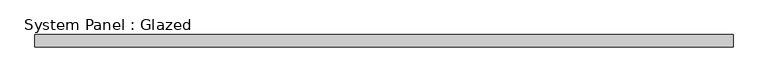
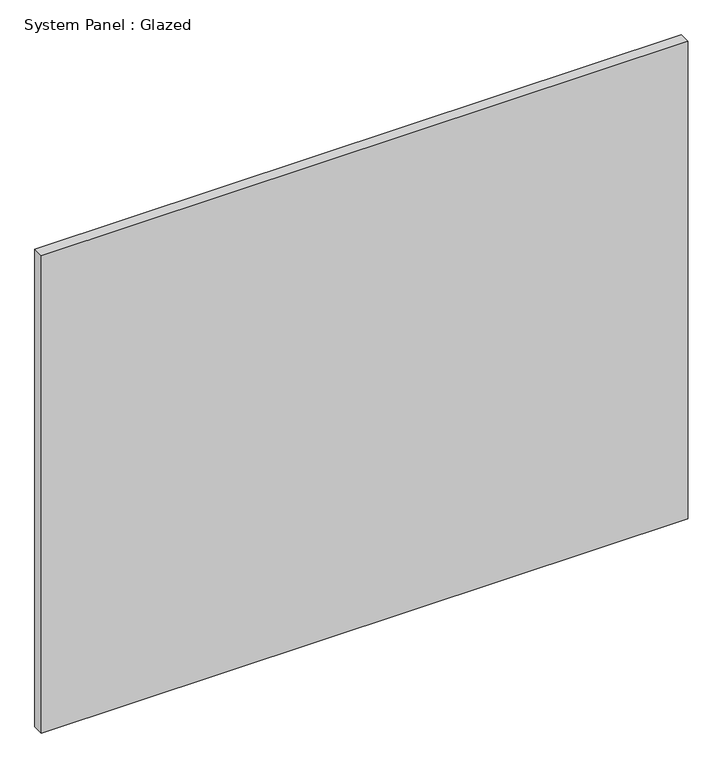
"""IFC4 building model written with IfcOpenShell, lengths in millimetres: plate geometry, System Panel : Glazed."""

from ifc_helpers import new_model, si_unit, origin, origin_with_axes, place, context, project, spatial, polyline, outline, extrude, source, transform, mapped, element, save


def system_panel_glazed_3e1611a5(model_context):
    return source(origin(), model_context, "Body", "SweptSolid", [
        extrude(outline(polyline([(568.75, -40.0), (-568.75, -40.0), (-568.75, -20.0), (568.75, -20.0), (568.75, -40.0)])), origin_with_axes(), (0.0, 0.0, 1.0), 888.0),
    ])


if __name__ == "__main__":
    model = new_model("IFC4")
    model_context = context("Model", 3, world=origin())
    ifc_project = project(units=[si_unit("LENGTHUNIT", "METRE", prefix="MILLI")], contexts=[model_context])
    site = spatial("IfcSite", under=ifc_project)
    building = spatial("IfcBuilding", under=site)
    placement = place(None, origin())
    system_panel_glazed_shape = system_panel_glazed_3e1611a5(model_context)
    element("IfcPlate", 1, ObjectType="System Panel : Glazed", at=placement, inside=building, context=model_context, shape_type="MappedRepresentation", body=[
        mapped(system_panel_glazed_shape, transform((0.0, 0.0, 0.0), x_axis=(1.0, 0.0, 0.0), y_axis=(0.0, 1.0, 0.0), z_axis=(0.0, 0.0, 1.0))),
    ])
    save(model, "model.ifc")
